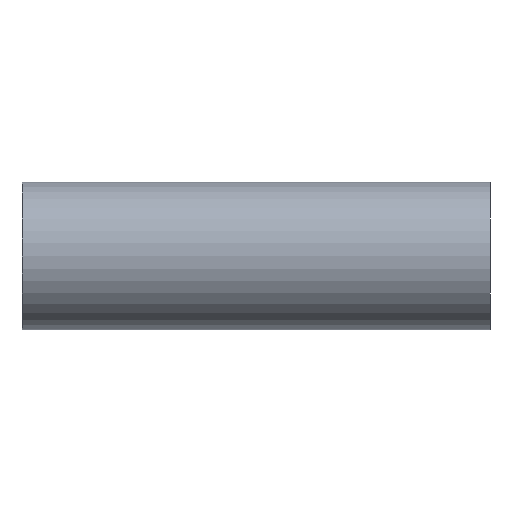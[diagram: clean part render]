
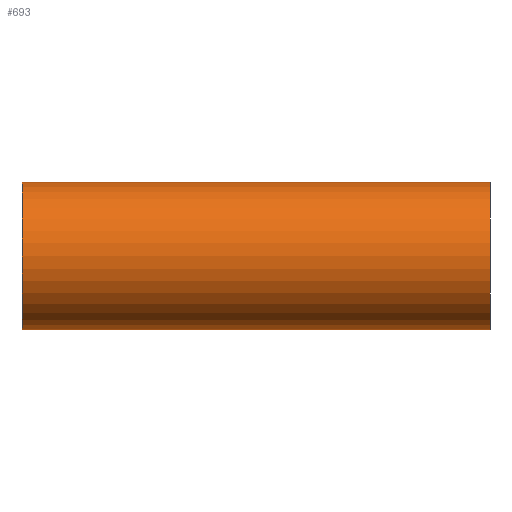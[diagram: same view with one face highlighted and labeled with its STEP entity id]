
A CAD part, front view. The second image highlights one B-rep face of the part: STEP entity #693.
In plain terms, the highlighted cylindrical face has radius 19.05 mm (diameter 38.1 mm), a partial arc.
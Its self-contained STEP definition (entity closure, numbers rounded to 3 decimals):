
#53 = EDGE_LOOP ( 'NONE', ( #378, #316, #286, #859 ) ) ;
#98 = VERTEX_POINT ( 'NONE', #899 ) ;
#124 = CARTESIAN_POINT ( 'NONE',  ( 60.3, 0., 19.05 ) ) ;
#155 = VERTEX_POINT ( 'NONE', #1124 ) ;
#238 = CIRCLE ( 'NONE', #511, 19.05 ) ;
#250 = EDGE_CURVE ( 'NONE', #155, #624, #505, .T. ) ;
#262 = CARTESIAN_POINT ( 'NONE',  ( -60.3, 0., -19.05 ) ) ;
#286 = ORIENTED_EDGE ( 'NONE', *, *, #713, .T. ) ;
#316 = ORIENTED_EDGE ( 'NONE', *, *, #996, .T. ) ;
#346 = VECTOR ( 'NONE', #1023, 1000. ) ;
#348 = EDGE_CURVE ( 'NONE', #98, #624, #541, .T. ) ;
#378 = ORIENTED_EDGE ( 'NONE', *, *, #348, .F. ) ;
#505 = CIRCLE ( 'NONE', #860, 19.05 ) ;
#511 = AXIS2_PLACEMENT_3D ( 'NONE', #1014, #1125, #1132 ) ;
#541 = LINE ( 'NONE', #1207, #346 ) ;
#624 = VERTEX_POINT ( 'NONE', #124 ) ;
#648 = FACE_OUTER_BOUND ( 'NONE', #53, .T. ) ;
#693 = ADVANCED_FACE ( 'NONE', ( #648 ), #1218, .T. ) ;
#713 = EDGE_CURVE ( 'NONE', #765, #155, #1058, .T. ) ;
#765 = VERTEX_POINT ( 'NONE', #262 ) ;
#808 = VECTOR ( 'NONE', #1100, 1000. ) ;
#822 = DIRECTION ( 'NONE',  ( 0., 0., -1. ) ) ;
#830 = CARTESIAN_POINT ( 'NONE',  ( -60.3, 0., 0. ) ) ;
#859 = ORIENTED_EDGE ( 'NONE', *, *, #250, .T. ) ;
#860 = AXIS2_PLACEMENT_3D ( 'NONE', #972, #1115, #1177 ) ;
#899 = CARTESIAN_POINT ( 'NONE',  ( -60.3, 0., 19.05 ) ) ;
#929 = DIRECTION ( 'NONE',  ( 1., 0., 0. ) ) ;
#971 = AXIS2_PLACEMENT_3D ( 'NONE', #830, #929, #822 ) ;
#972 = CARTESIAN_POINT ( 'NONE',  ( 60.3, 0., 0. ) ) ;
#996 = EDGE_CURVE ( 'NONE', #98, #765, #238, .T. ) ;
#1014 = CARTESIAN_POINT ( 'NONE',  ( -60.3, 0., 0. ) ) ;
#1023 = DIRECTION ( 'NONE',  ( 1., 0., 0. ) ) ;
#1025 = CARTESIAN_POINT ( 'NONE',  ( -60.3, 0., -19.05 ) ) ;
#1058 = LINE ( 'NONE', #1025, #808 ) ;
#1100 = DIRECTION ( 'NONE',  ( 1., 0., 0. ) ) ;
#1115 = DIRECTION ( 'NONE',  ( -1., 0., 0. ) ) ;
#1124 = CARTESIAN_POINT ( 'NONE',  ( 60.3, 0., -19.05 ) ) ;
#1125 = DIRECTION ( 'NONE',  ( 1., 0., 0. ) ) ;
#1132 = DIRECTION ( 'NONE',  ( 0., 0., -1. ) ) ;
#1177 = DIRECTION ( 'NONE',  ( 0., 0., -1. ) ) ;
#1207 = CARTESIAN_POINT ( 'NONE',  ( -60.3, 0., 19.05 ) ) ;
#1218 = CYLINDRICAL_SURFACE ( 'NONE', #971, 19.05 ) ;
